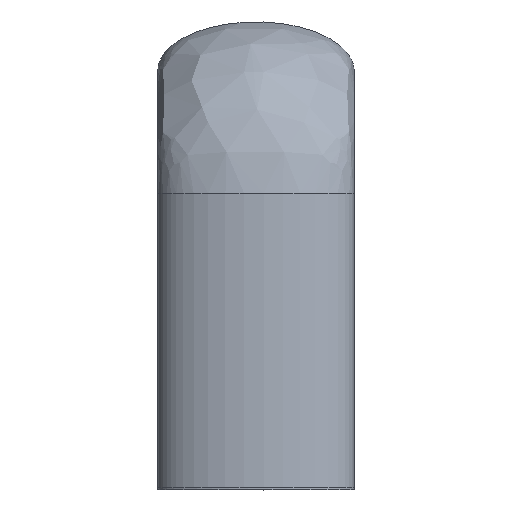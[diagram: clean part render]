
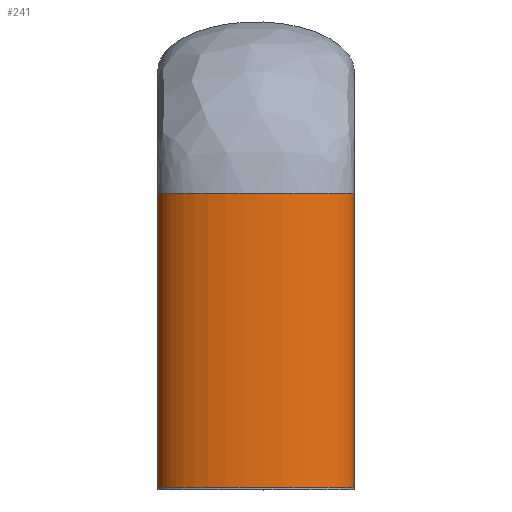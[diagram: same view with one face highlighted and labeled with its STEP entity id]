
A CAD part, top view. The second image highlights one B-rep face of the part: STEP entity #241.
In plain terms, the highlighted free-form (B-spline) face has degree [3, 1] with [7, 2] control points.
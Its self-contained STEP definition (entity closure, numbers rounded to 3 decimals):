
#29 = CARTESIAN_POINT ( 'NONE',  ( 8., 0., 0. ) ) ;
#36 = EDGE_CURVE ( 'NONE', #515, #60, #586, .T. ) ;
#42 = CARTESIAN_POINT ( 'NONE',  ( -8., 0., 0. ) ) ;
#52 = CARTESIAN_POINT ( 'NONE',  ( 8., 24., 8. ) ) ;
#53 = B_SPLINE_CURVE_WITH_KNOTS ( 'NONE', 1,
 ( #392, #179 ),
 .UNSPECIFIED., .F., .F.,
 ( 2, 2 ),
 ( 0., 1. ),
 .UNSPECIFIED. ) ;
#60 = VERTEX_POINT ( 'NONE', #299 ) ;
#70 = CARTESIAN_POINT ( 'NONE',  ( 8., 24., 0. ) ) ;
#82 = CARTESIAN_POINT ( 'NONE',  ( -8., 24., 0. ) ) ;
#87 =( BOUNDED_CURVE ( )  B_SPLINE_CURVE ( 3, ( #468, #711, #523, #301 ),
 .UNSPECIFIED., .F., .T. ) 
 B_SPLINE_CURVE_WITH_KNOTS ( ( 4, 4 ),
 ( 3.142, 6.283 ),
 .UNSPECIFIED. ) 
 CURVE ( )  GEOMETRIC_REPRESENTATION_ITEM ( )  RATIONAL_B_SPLINE_CURVE ( ( 1., 0.333, 0.333, 1. ) ) 
 REPRESENTATION_ITEM ( '' )  );
#112 = CARTESIAN_POINT ( 'NONE',  ( -8., 0., -8. ) ) ;
#125 = CARTESIAN_POINT ( 'NONE',  ( 8., 0., 0. ) ) ;
#131 = CARTESIAN_POINT ( 'NONE',  ( -8., 0., 0. ) ) ;
#145 =( BOUNDED_CURVE ( )  B_SPLINE_CURVE ( 3, ( #281, #492, #52, #432 ),
 .UNSPECIFIED., .F., .T. ) 
 B_SPLINE_CURVE_WITH_KNOTS ( ( 4, 4 ),
 ( 3.142, 6.283 ),
 .UNSPECIFIED. ) 
 CURVE ( )  GEOMETRIC_REPRESENTATION_ITEM ( )  RATIONAL_B_SPLINE_CURVE ( ( 1., 0.333, 0.333, 1. ) ) 
 REPRESENTATION_ITEM ( '' )  );
#169 = CARTESIAN_POINT ( 'NONE',  ( 8., 24., -8. ) ) ;
#173 = EDGE_CURVE ( 'NONE', #231, #390, #53, .T. ) ;
#178 = ORIENTED_EDGE ( 'NONE', *, *, #36, .T. ) ;
#179 = CARTESIAN_POINT ( 'NONE',  ( -8., 24., 0. ) ) ;
#188 = CARTESIAN_POINT ( 'NONE',  ( 8., 0., 0. ) ) ;
#200 = CARTESIAN_POINT ( 'NONE',  ( -8., 24., 8. ) ) ;
#224 = ORIENTED_EDGE ( 'NONE', *, *, #545, .T. ) ;
#229 = EDGE_CURVE ( 'NONE', #390, #60, #145, .T. ) ;
#231 = VERTEX_POINT ( 'NONE', #42 ) ;
#241 = ADVANCED_FACE ( 'NONE', ( #736 ), #459, .T. ) ;
#244 = CARTESIAN_POINT ( 'NONE',  ( 8., 24., 8. ) ) ;
#254 = CARTESIAN_POINT ( 'NONE',  ( 8., 0., 8. ) ) ;
#281 = CARTESIAN_POINT ( 'NONE',  ( -8., 24., 0. ) ) ;
#299 = CARTESIAN_POINT ( 'NONE',  ( 8., 24., 0. ) ) ;
#301 = CARTESIAN_POINT ( 'NONE',  ( 8., 0., 0. ) ) ;
#333 = CARTESIAN_POINT ( 'NONE',  ( -8., 24., -8. ) ) ;
#344 = CARTESIAN_POINT ( 'NONE',  ( -8., 24., 0. ) ) ;
#351 = CARTESIAN_POINT ( 'NONE',  ( -8., 0., 8. ) ) ;
#359 = CARTESIAN_POINT ( 'NONE',  ( 8., 24., 0. ) ) ;
#390 = VERTEX_POINT ( 'NONE', #82 ) ;
#392 = CARTESIAN_POINT ( 'NONE',  ( -8., 0., 0. ) ) ;
#432 = CARTESIAN_POINT ( 'NONE',  ( 8., 24., 0. ) ) ;
#438 = CARTESIAN_POINT ( 'NONE',  ( 8., 0., 0. ) ) ;
#440 = ORIENTED_EDGE ( 'NONE', *, *, #173, .F. ) ;
#459 =( BOUNDED_SURFACE ( )  B_SPLINE_SURFACE ( 3, 1, ( 
 ( #438, #676 ),
 ( #616, #169 ),
 ( #112, #333 ),
 ( #131, #344 ),
 ( #351, #200 ),
 ( #254, #244 ),
 ( #125, #70 ) ),
 .UNSPECIFIED., .T., .F., .T. ) 
 B_SPLINE_SURFACE_WITH_KNOTS ( ( 4, 3, 4 ),
 ( 2, 2 ),
 ( 0., 0.5, 1. ),
 ( 0., 1. ),
 .UNSPECIFIED. ) 
 GEOMETRIC_REPRESENTATION_ITEM ( )  RATIONAL_B_SPLINE_SURFACE ( (
 ( 1., 1.),
 ( 0.333, 0.333),
 ( 0.333, 0.333),
 ( 1., 1.),
 ( 0.333, 0.333),
 ( 0.333, 0.333),
 ( 1., 1.) ) ) 
 REPRESENTATION_ITEM ( '' )  SURFACE ( )  );
#468 = CARTESIAN_POINT ( 'NONE',  ( -8., 0., 0. ) ) ;
#492 = CARTESIAN_POINT ( 'NONE',  ( -8., 24., 8. ) ) ;
#515 = VERTEX_POINT ( 'NONE', #29 ) ;
#523 = CARTESIAN_POINT ( 'NONE',  ( 8., 0., 8. ) ) ;
#545 = EDGE_CURVE ( 'NONE', #231, #515, #87, .T. ) ;
#550 = ORIENTED_EDGE ( 'NONE', *, *, #229, .F. ) ;
#559 = EDGE_LOOP ( 'NONE', ( #440, #224, #178, #550 ) ) ;
#586 = B_SPLINE_CURVE_WITH_KNOTS ( 'NONE', 1,
 ( #188, #359 ),
 .UNSPECIFIED., .F., .F.,
 ( 2, 2 ),
 ( 0., 1. ),
 .UNSPECIFIED. ) ;
#616 = CARTESIAN_POINT ( 'NONE',  ( 8., 0., -8. ) ) ;
#676 = CARTESIAN_POINT ( 'NONE',  ( 8., 24., 0. ) ) ;
#711 = CARTESIAN_POINT ( 'NONE',  ( -8., 0., 8. ) ) ;
#736 = FACE_OUTER_BOUND ( 'NONE', #559, .T. ) ;
